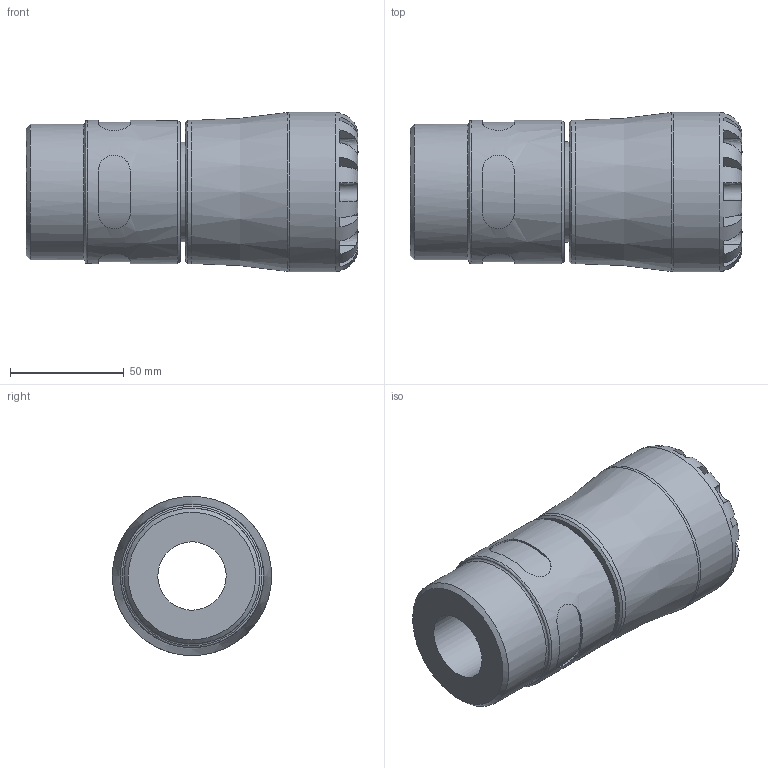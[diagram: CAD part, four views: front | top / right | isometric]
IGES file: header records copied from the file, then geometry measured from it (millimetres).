
Global section: file name: 10N200040020_10N2G0040020; native system: Autodesk Inventor 2019; preprocessor: unknown; author: KIM; date: 20240312.131952; units: millimetre
Bounding box: 146 x 70 x 70 mm (x, y, z)
Volume: 321504.3 mm3; surface area: 54854.7 mm2
Topology: 1 solids, 1 shells, 105 faces, 275 edges, 178 vertices
Faces by surface type: bspline 105
